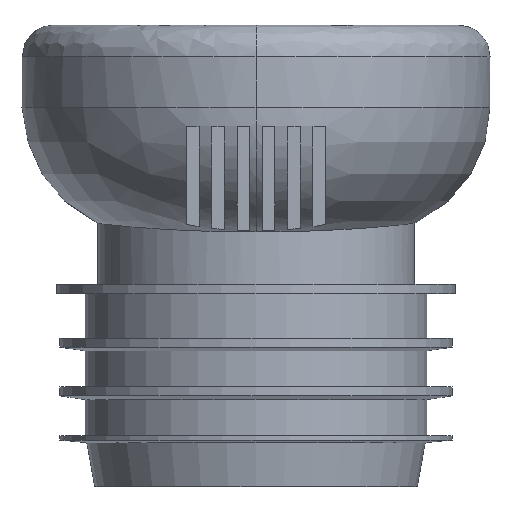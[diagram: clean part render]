
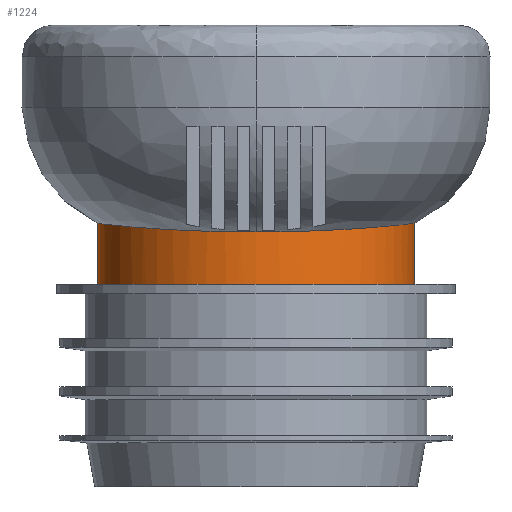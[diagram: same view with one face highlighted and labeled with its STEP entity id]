
A CAD part, front view. The second image highlights one B-rep face of the part: STEP entity #1224.
In plain terms, the highlighted cylindrical face has radius 25 mm (diameter 50 mm), a full revolution.
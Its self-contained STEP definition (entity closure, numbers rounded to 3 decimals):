
#15=CYLINDRICAL_SURFACE('',#1333,25.);
#100=B_SPLINE_CURVE_WITH_KNOTS('',3,(#2433,#2434,#2435,#2436,#2437,#2438,
#2439,#2440,#2441,#2442,#2443,#2444,#2445,#2446,#2447,#2448,#2449,#2450,
#2451,#2452,#2453,#2454),.UNSPECIFIED.,.F.,.F.,(4,2,2,2,2,2,2,2,2,2,4),
(-7.879,-7.386,-6.751,-5.836,
-4.929,-3.94,-2.95,-2.043,
-1.129,-0.493,0.),.UNSPECIFIED.);
#102=B_SPLINE_CURVE_WITH_KNOTS('',3,(#2787,#2788,#2789,#2790,#2791,#2792,
#2793,#2794,#2795,#2796,#2797,#2798,#2799,#2800),.UNSPECIFIED.,.F.,.F.,
(4,2,2,2,2,2,4),(-7.879,-7.386,-6.75,
-5.836,-4.929,-3.94,-3.94),
 .UNSPECIFIED.);
#103=B_SPLINE_CURVE_WITH_KNOTS('',3,(#2801,#2802,#2803,#2804,#2805,#2806,
#2807,#2808,#2809,#2810,#2811,#2812),.UNSPECIFIED.,.F.,.F.,(4,2,2,2,2,4),
(-3.94,-2.95,-2.043,-1.129,
-0.493,0.),.UNSPECIFIED.);
#167=FACE_OUTER_BOUND('',#255,.T.);
#255=EDGE_LOOP('',(#966,#967,#968,#969,#970,#971,#972));
#343=LINE('',#3530,#419);
#419=VECTOR('',#1569,25.);
#436=CIRCLE('',#1329,25.);
#437=CIRCLE('',#1330,25.);
#530=VERTEX_POINT('',#2304);
#532=VERTEX_POINT('',#2384);
#533=VERTEX_POINT('',#2786);
#538=VERTEX_POINT('',#3521);
#539=VERTEX_POINT('',#3522);
#670=EDGE_CURVE('',#530,#532,#100,.F.);
#672=EDGE_CURVE('',#530,#533,#102,.T.);
#673=EDGE_CURVE('',#533,#532,#103,.T.);
#682=EDGE_CURVE('',#538,#539,#436,.T.);
#683=EDGE_CURVE('',#539,#538,#437,.T.);
#686=EDGE_CURVE('',#533,#538,#343,.T.);
#966=ORIENTED_EDGE('',*,*,#672,.F.);
#967=ORIENTED_EDGE('',*,*,#670,.T.);
#968=ORIENTED_EDGE('',*,*,#673,.F.);
#969=ORIENTED_EDGE('',*,*,#686,.T.);
#970=ORIENTED_EDGE('',*,*,#682,.T.);
#971=ORIENTED_EDGE('',*,*,#683,.T.);
#972=ORIENTED_EDGE('',*,*,#686,.F.);
#1224=ADVANCED_FACE('',(#167),#15,.T.);
#1329=AXIS2_PLACEMENT_3D('',#3523,#1558,#1559);
#1330=AXIS2_PLACEMENT_3D('',#3524,#1560,#1561);
#1333=AXIS2_PLACEMENT_3D('',#3529,#1567,#1568);
#1558=DIRECTION('center_axis',(0.,0.,1.));
#1559=DIRECTION('ref_axis',(-1.,0.,0.));
#1560=DIRECTION('center_axis',(0.,0.,1.));
#1561=DIRECTION('ref_axis',(-1.,0.,0.));
#1567=DIRECTION('center_axis',(0.,0.,1.));
#1568=DIRECTION('ref_axis',(1.,0.,0.));
#1569=DIRECTION('',(0.,0.,-1.));
#2304=CARTESIAN_POINT('',(0.,25.,0.309));
#2384=CARTESIAN_POINT('',(0.,-25.,0.309));
#2433=CARTESIAN_POINT('Ctrl Pts',(0.,-25.,0.309));
#2434=CARTESIAN_POINT('Ctrl Pts',(1.642,-25.,0.309));
#2435=CARTESIAN_POINT('Ctrl Pts',(3.281,-24.838,0.323));
#2436=CARTESIAN_POINT('Ctrl Pts',(6.97,-24.102,0.391));
#2437=CARTESIAN_POINT('Ctrl Pts',(8.986,-23.425,0.454));
#2438=CARTESIAN_POINT('Ctrl Pts',(13.633,-21.176,0.658));
#2439=CARTESIAN_POINT('Ctrl Pts',(16.107,-19.36,0.82));
#2440=CARTESIAN_POINT('Ctrl Pts',(20.264,-14.949,1.155));
#2441=CARTESIAN_POINT('Ctrl Pts',(21.92,-12.395,1.323));
#2442=CARTESIAN_POINT('Ctrl Pts',(24.347,-6.563,1.587));
#2443=CARTESIAN_POINT('Ctrl Pts',(25.,-3.299,1.669));
#2444=CARTESIAN_POINT('Ctrl Pts',(25.,3.299,1.669));
#2445=CARTESIAN_POINT('Ctrl Pts',(24.347,6.563,1.587));
#2446=CARTESIAN_POINT('Ctrl Pts',(21.92,12.394,1.323));
#2447=CARTESIAN_POINT('Ctrl Pts',(20.265,14.948,1.155));
#2448=CARTESIAN_POINT('Ctrl Pts',(16.108,19.359,0.82));
#2449=CARTESIAN_POINT('Ctrl Pts',(13.634,21.175,0.658));
#2450=CARTESIAN_POINT('Ctrl Pts',(8.987,23.425,0.454));
#2451=CARTESIAN_POINT('Ctrl Pts',(6.97,24.102,0.391));
#2452=CARTESIAN_POINT('Ctrl Pts',(3.281,24.838,0.323));
#2453=CARTESIAN_POINT('Ctrl Pts',(1.642,25.,0.309));
#2454=CARTESIAN_POINT('Ctrl Pts',(0.,25.,0.309));
#2786=CARTESIAN_POINT('',(-25.,0.,1.669));
#2787=CARTESIAN_POINT('Ctrl Pts',(0.,25.,0.309));
#2788=CARTESIAN_POINT('Ctrl Pts',(-1.642,25.,0.309));
#2789=CARTESIAN_POINT('Ctrl Pts',(-3.28,24.838,0.323));
#2790=CARTESIAN_POINT('Ctrl Pts',(-6.969,24.102,0.391));
#2791=CARTESIAN_POINT('Ctrl Pts',(-8.986,23.425,0.454));
#2792=CARTESIAN_POINT('Ctrl Pts',(-13.634,21.175,0.658));
#2793=CARTESIAN_POINT('Ctrl Pts',(-16.108,19.359,0.82));
#2794=CARTESIAN_POINT('Ctrl Pts',(-20.264,14.949,1.155));
#2795=CARTESIAN_POINT('Ctrl Pts',(-21.92,12.395,1.323));
#2796=CARTESIAN_POINT('Ctrl Pts',(-24.347,6.564,1.587));
#2797=CARTESIAN_POINT('Ctrl Pts',(-25.,3.301,1.669));
#2798=CARTESIAN_POINT('Ctrl Pts',(-25.,0.001,
1.669));
#2799=CARTESIAN_POINT('Ctrl Pts',(-25.,0.,1.669));
#2800=CARTESIAN_POINT('Ctrl Pts',(-25.,0.,1.669));
#2801=CARTESIAN_POINT('Ctrl Pts',(-25.,0.,1.669));
#2802=CARTESIAN_POINT('Ctrl Pts',(-25.,-3.299,1.669));
#2803=CARTESIAN_POINT('Ctrl Pts',(-24.347,-6.562,1.587));
#2804=CARTESIAN_POINT('Ctrl Pts',(-21.921,-12.393,1.323));
#2805=CARTESIAN_POINT('Ctrl Pts',(-20.265,-14.947,1.155));
#2806=CARTESIAN_POINT('Ctrl Pts',(-16.109,-19.358,0.82));
#2807=CARTESIAN_POINT('Ctrl Pts',(-13.635,-21.174,0.658));
#2808=CARTESIAN_POINT('Ctrl Pts',(-8.987,-23.425,0.454));
#2809=CARTESIAN_POINT('Ctrl Pts',(-6.97,-24.102,0.391));
#2810=CARTESIAN_POINT('Ctrl Pts',(-3.28,-24.838,0.323));
#2811=CARTESIAN_POINT('Ctrl Pts',(-1.642,-25.,0.309));
#2812=CARTESIAN_POINT('Ctrl Pts',(0.,-25.,
0.309));
#3521=CARTESIAN_POINT('',(-25.,0.,-37.));
#3522=CARTESIAN_POINT('',(12.5,-21.651,-37.));
#3523=CARTESIAN_POINT('Origin',(0.,0.,-37.));
#3524=CARTESIAN_POINT('Origin',(0.,0.,-37.));
#3529=CARTESIAN_POINT('Origin',(0.,0.,-15.));
#3530=CARTESIAN_POINT('',(-25.,0.,-15.));
